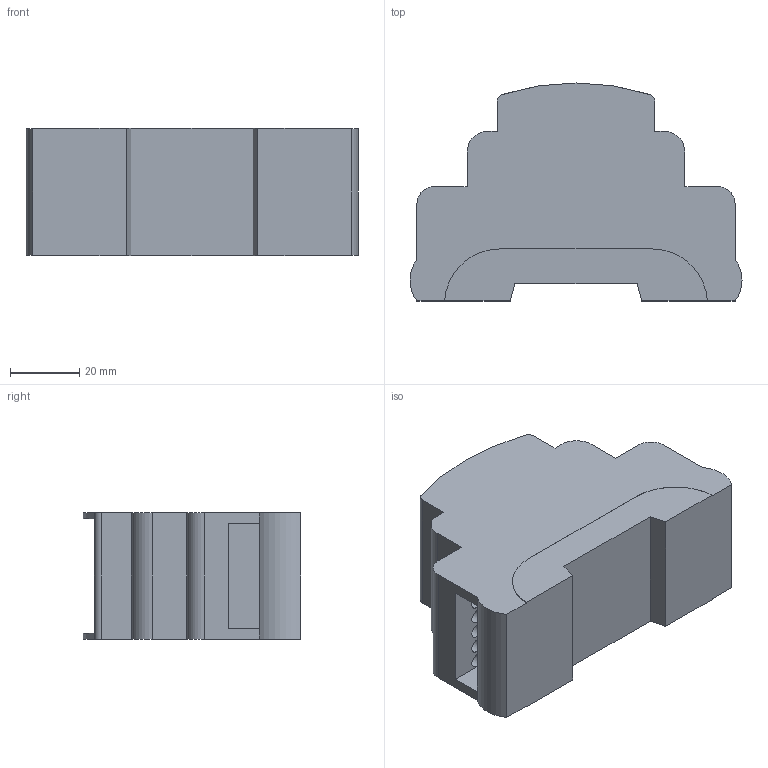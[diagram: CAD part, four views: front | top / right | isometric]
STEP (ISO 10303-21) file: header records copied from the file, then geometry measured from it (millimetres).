
FILE_DESCRIPTION((''),'2;1');
FILE_NAME('CAT_I_203','2024-12-05T08:41:03',('LGZ'),(''),'CREO PARAMETRIC BY PTC INC, 2023072','CREO PARAMETRIC BY PTC INC, 2023072','');
FILE_SCHEMA(('AUTOMOTIVE_DESIGN { 1 0 10303 214 1 1 1 1 }'));
Length unit declared in the file: millimetre
Products named in the file (1): CAT_I_203
Bounding box: 96 x 63 x 37 mm (x, y, z)
Volume: 145861.2 mm3; surface area: 24964 mm2
Topology: 1 solids, 1 shells, 73 faces, 206 edges, 136 vertices
Faces by surface type: cylinder 37, plane 36
Entity records: 2595 total; most frequent: DIRECTION 428, CARTESIAN_POINT 417, ORIENTED_EDGE 412, EDGE_CURVE 206, AXIS2_PLACEMENT_3D 149, VERTEX_POINT 136, VECTOR 130, LINE 130
